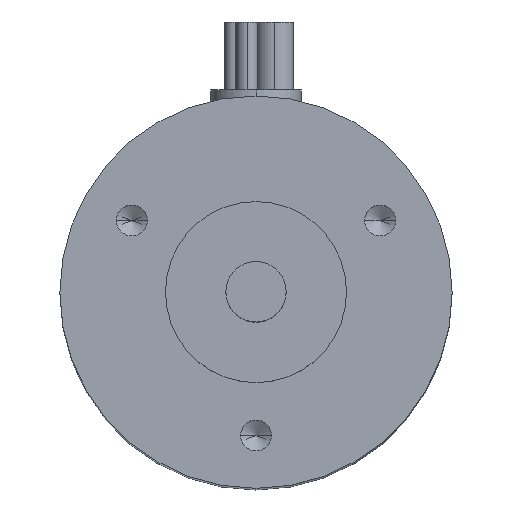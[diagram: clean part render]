
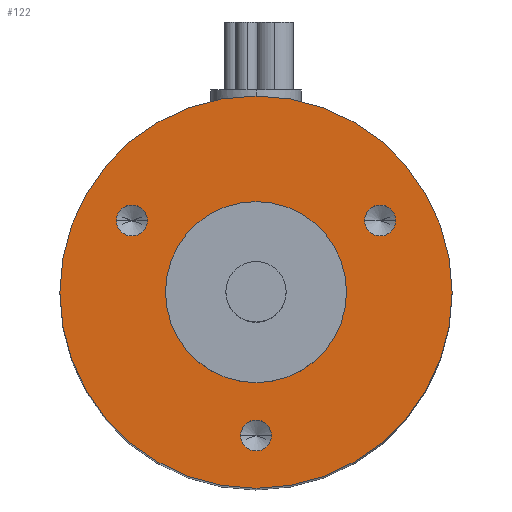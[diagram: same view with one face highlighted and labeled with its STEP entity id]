
A CAD part, top view. The second image highlights one B-rep face of the part: STEP entity #122.
In plain terms, the highlighted planar face has unit normal (0, 0, 1).
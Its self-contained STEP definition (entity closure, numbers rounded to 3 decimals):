
#23 = DIRECTION ( 'NONE',  ( 0., 0., 1. ) ) ;
#40 = VERTEX_POINT ( 'NONE', #875 ) ;
#41 = AXIS2_PLACEMENT_3D ( 'NONE', #403, #139, #650 ) ;
#45 = VERTEX_POINT ( 'NONE', #1047 ) ;
#57 = CARTESIAN_POINT ( 'NONE',  ( 0., 0., 0. ) ) ;
#70 = DIRECTION ( 'NONE',  ( 1., 0., 0. ) ) ;
#83 = CARTESIAN_POINT ( 'NONE',  ( -13., 0., 0. ) ) ;
#84 = CIRCLE ( 'NONE', #712, 1.025 ) ;
#90 = DIRECTION ( 'NONE',  ( 1., 0., 0. ) ) ;
#91 = FACE_BOUND ( 'NONE', #131, .T. ) ;
#103 = FACE_BOUND ( 'NONE', #110, .T. ) ;
#110 = EDGE_LOOP ( 'NONE', ( #359, #991 ) ) ;
#117 = CIRCLE ( 'NONE', #692, 1.025 ) ;
#122 = ADVANCED_FACE ( 'NONE', ( #91, #818, #506, #103, #569 ), #830, .T. ) ;
#131 = EDGE_LOOP ( 'NONE', ( #892, #614 ) ) ;
#133 = DIRECTION ( 'NONE',  ( 1., 0., 0. ) ) ;
#139 = DIRECTION ( 'NONE',  ( 0., 0., 1. ) ) ;
#146 = CARTESIAN_POINT ( 'NONE',  ( -7.202, 4.75, 0. ) ) ;
#160 = ORIENTED_EDGE ( 'NONE', *, *, #1051, .F. ) ;
#189 = CARTESIAN_POINT ( 'NONE',  ( 1.025, -9.5, 0. ) ) ;
#193 = DIRECTION ( 'NONE',  ( 0., 0., 1. ) ) ;
#220 = DIRECTION ( 'NONE',  ( 0., 0., 1. ) ) ;
#243 = VERTEX_POINT ( 'NONE', #685 ) ;
#251 = CARTESIAN_POINT ( 'NONE',  ( 0., 0., 0. ) ) ;
#259 = CARTESIAN_POINT ( 'NONE',  ( 7.202, 4.75, 0. ) ) ;
#274 = AXIS2_PLACEMENT_3D ( 'NONE', #952, #1025, #133 ) ;
#296 = CIRCLE ( 'NONE', #708, 1.025 ) ;
#314 = CARTESIAN_POINT ( 'NONE',  ( 0., -9.5, 0. ) ) ;
#337 = CARTESIAN_POINT ( 'NONE',  ( 0., 0., 0. ) ) ;
#348 = AXIS2_PLACEMENT_3D ( 'NONE', #582, #193, #663 ) ;
#359 = ORIENTED_EDGE ( 'NONE', *, *, #745, .F. ) ;
#377 = ORIENTED_EDGE ( 'NONE', *, *, #751, .T. ) ;
#393 = VERTEX_POINT ( 'NONE', #146 ) ;
#403 = CARTESIAN_POINT ( 'NONE',  ( 8.227, 4.75, 0. ) ) ;
#416 = EDGE_CURVE ( 'NONE', #842, #886, #896, .T. ) ;
#418 = CIRCLE ( 'NONE', #1048, 13. ) ;
#420 = CARTESIAN_POINT ( 'NONE',  ( 9.252, 4.75, 0. ) ) ;
#422 = DIRECTION ( 'NONE',  ( 0., 0., 1. ) ) ;
#443 = EDGE_CURVE ( 'NONE', #886, #842, #84, .T. ) ;
#459 = VERTEX_POINT ( 'NONE', #472 ) ;
#472 = CARTESIAN_POINT ( 'NONE',  ( -6., 0., 0. ) ) ;
#482 = EDGE_LOOP ( 'NONE', ( #711, #612 ) ) ;
#488 = DIRECTION ( 'NONE',  ( 0., 0., 1. ) ) ;
#494 = CIRCLE ( 'NONE', #41, 1.025 ) ;
#506 = FACE_BOUND ( 'NONE', #482, .T. ) ;
#509 = DIRECTION ( 'NONE',  ( 1., 0., 0. ) ) ;
#517 = ORIENTED_EDGE ( 'NONE', *, *, #904, .F. ) ;
#537 = DIRECTION ( 'NONE',  ( 1., 0., 0. ) ) ;
#546 = ORIENTED_EDGE ( 'NONE', *, *, #922, .T. ) ;
#549 = AXIS2_PLACEMENT_3D ( 'NONE', #251, #905, #90 ) ;
#557 = EDGE_CURVE ( 'NONE', #40, #459, #601, .T. ) ;
#569 = FACE_OUTER_BOUND ( 'NONE', #581, .T. ) ;
#581 = EDGE_LOOP ( 'NONE', ( #377, #546 ) ) ;
#582 = CARTESIAN_POINT ( 'NONE',  ( -8.227, 4.75, 0. ) ) ;
#601 = CIRCLE ( 'NONE', #549, 6. ) ;
#605 = CARTESIAN_POINT ( 'NONE',  ( -8.227, 4.75, 0. ) ) ;
#612 = ORIENTED_EDGE ( 'NONE', *, *, #702, .F. ) ;
#614 = ORIENTED_EDGE ( 'NONE', *, *, #416, .F. ) ;
#625 = AXIS2_PLACEMENT_3D ( 'NONE', #337, #422, #735 ) ;
#631 = CIRCLE ( 'NONE', #874, 13. ) ;
#650 = DIRECTION ( 'NONE',  ( 1., 0., 0. ) ) ;
#663 = DIRECTION ( 'NONE',  ( 1., 0., 0. ) ) ;
#685 = CARTESIAN_POINT ( 'NONE',  ( -9.252, 4.75, 0. ) ) ;
#692 = AXIS2_PLACEMENT_3D ( 'NONE', #605, #924, #853 ) ;
#702 = EDGE_CURVE ( 'NONE', #980, #871, #296, .T. ) ;
#708 = AXIS2_PLACEMENT_3D ( 'NONE', #850, #488, #793 ) ;
#711 = ORIENTED_EDGE ( 'NONE', *, *, #765, .F. ) ;
#712 = AXIS2_PLACEMENT_3D ( 'NONE', #713, #957, #70 ) ;
#713 = CARTESIAN_POINT ( 'NONE',  ( 0., -9.5, 0. ) ) ;
#735 = DIRECTION ( 'NONE',  ( 1., 0., 0. ) ) ;
#745 = EDGE_CURVE ( 'NONE', #459, #40, #958, .T. ) ;
#751 = EDGE_CURVE ( 'NONE', #45, #788, #631, .T. ) ;
#757 = CARTESIAN_POINT ( 'NONE',  ( 0., 0., 0. ) ) ;
#765 = EDGE_CURVE ( 'NONE', #871, #980, #494, .T. ) ;
#788 = VERTEX_POINT ( 'NONE', #83 ) ;
#793 = DIRECTION ( 'NONE',  ( 1., 0., 0. ) ) ;
#818 = FACE_BOUND ( 'NONE', #1045, .T. ) ;
#830 = PLANE ( 'NONE',  #625 ) ;
#842 = VERTEX_POINT ( 'NONE', #893 ) ;
#850 = CARTESIAN_POINT ( 'NONE',  ( 8.227, 4.75, 0. ) ) ;
#853 = DIRECTION ( 'NONE',  ( 1., 0., 0. ) ) ;
#863 = CIRCLE ( 'NONE', #348, 1.025 ) ;
#871 = VERTEX_POINT ( 'NONE', #420 ) ;
#874 = AXIS2_PLACEMENT_3D ( 'NONE', #57, #220, #1030 ) ;
#875 = CARTESIAN_POINT ( 'NONE',  ( 6., 0., 0. ) ) ;
#886 = VERTEX_POINT ( 'NONE', #189 ) ;
#892 = ORIENTED_EDGE ( 'NONE', *, *, #443, .F. ) ;
#893 = CARTESIAN_POINT ( 'NONE',  ( -1.025, -9.5, 0. ) ) ;
#896 = CIRCLE ( 'NONE', #1001, 1.025 ) ;
#904 = EDGE_CURVE ( 'NONE', #393, #243, #863, .T. ) ;
#905 = DIRECTION ( 'NONE',  ( 0., 0., 1. ) ) ;
#922 = EDGE_CURVE ( 'NONE', #788, #45, #418, .T. ) ;
#924 = DIRECTION ( 'NONE',  ( 0., 0., 1. ) ) ;
#952 = CARTESIAN_POINT ( 'NONE',  ( 0., 0., 0. ) ) ;
#957 = DIRECTION ( 'NONE',  ( 0., 0., 1. ) ) ;
#958 = CIRCLE ( 'NONE', #274, 6. ) ;
#980 = VERTEX_POINT ( 'NONE', #259 ) ;
#991 = ORIENTED_EDGE ( 'NONE', *, *, #557, .F. ) ;
#1001 = AXIS2_PLACEMENT_3D ( 'NONE', #314, #1032, #537 ) ;
#1025 = DIRECTION ( 'NONE',  ( 0., 0., 1. ) ) ;
#1030 = DIRECTION ( 'NONE',  ( 1., 0., 0. ) ) ;
#1032 = DIRECTION ( 'NONE',  ( 0., 0., 1. ) ) ;
#1045 = EDGE_LOOP ( 'NONE', ( #517, #160 ) ) ;
#1047 = CARTESIAN_POINT ( 'NONE',  ( 13., 0., 0. ) ) ;
#1048 = AXIS2_PLACEMENT_3D ( 'NONE', #757, #23, #509 ) ;
#1051 = EDGE_CURVE ( 'NONE', #243, #393, #117, .T. ) ;
